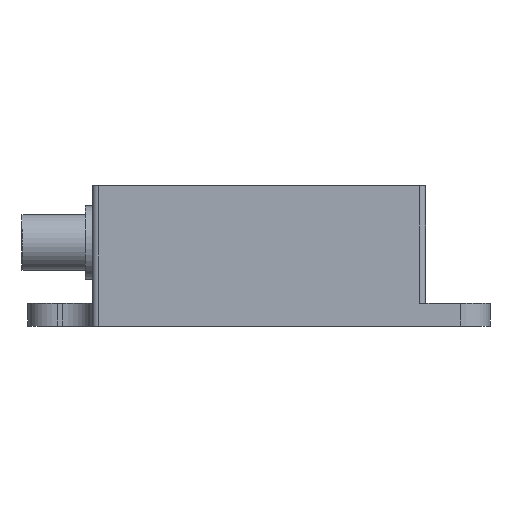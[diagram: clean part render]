
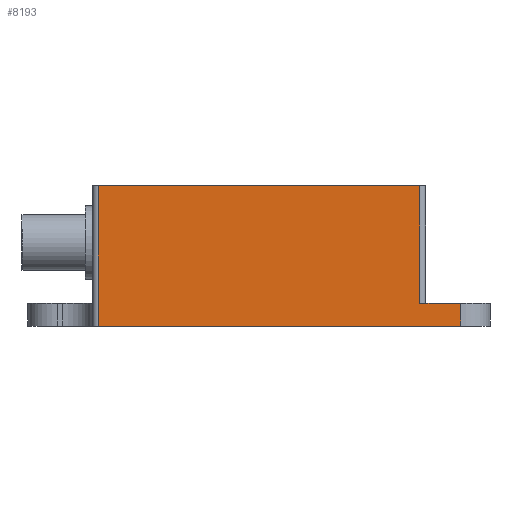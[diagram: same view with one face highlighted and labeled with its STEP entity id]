
A CAD part, left-side view. The second image highlights one B-rep face of the part: STEP entity #8193.
In plain terms, the highlighted planar face has unit normal (-1, 0, 0).
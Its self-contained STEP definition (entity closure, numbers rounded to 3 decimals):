
#751=FACE_OUTER_BOUND('',#1250,.T.);
#1250=EDGE_LOOP('',(#7350,#7351,#7352,#7353,#7354,#7355));
#2119=LINE('',#13257,#3064);
#2144=LINE('',#13350,#3089);
#2159=LINE('',#13402,#3104);
#2173=LINE('',#13439,#3118);
#2174=LINE('',#13442,#3119);
#2187=LINE('',#13477,#3132);
#3064=VECTOR('',#10300,10.);
#3089=VECTOR('',#10413,10.);
#3104=VECTOR('',#10460,10.);
#3118=VECTOR('',#10504,10.);
#3119=VECTOR('',#10509,10.);
#3132=VECTOR('',#10550,10.);
#3934=VERTEX_POINT('',#13254);
#3935=VERTEX_POINT('',#13256);
#3958=VERTEX_POINT('',#13347);
#3959=VERTEX_POINT('',#13349);
#3980=VERTEX_POINT('',#13400);
#3988=VERTEX_POINT('',#13438);
#5018=EDGE_CURVE('',#3934,#3935,#2119,.T.);
#5057=EDGE_CURVE('',#3959,#3958,#2144,.T.);
#5084=EDGE_CURVE('',#3980,#3958,#2159,.T.);
#5102=EDGE_CURVE('',#3935,#3988,#2173,.T.);
#5104=EDGE_CURVE('',#3959,#3934,#2174,.T.);
#5121=EDGE_CURVE('',#3988,#3980,#2187,.T.);
#7350=ORIENTED_EDGE('',*,*,#5084,.F.);
#7351=ORIENTED_EDGE('',*,*,#5121,.F.);
#7352=ORIENTED_EDGE('',*,*,#5102,.F.);
#7353=ORIENTED_EDGE('',*,*,#5018,.F.);
#7354=ORIENTED_EDGE('',*,*,#5104,.F.);
#7355=ORIENTED_EDGE('',*,*,#5057,.T.);
#7758=PLANE('',#8687);
#8193=ADVANCED_FACE('',(#751),#7758,.T.);
#8687=AXIS2_PLACEMENT_3D('',#13478,#10551,#10552);
#10300=DIRECTION('',(0.,-1.,0.));
#10413=DIRECTION('',(0.,-1.,0.));
#10460=DIRECTION('',(0.,0.,-1.));
#10504=DIRECTION('',(0.,0.,-1.));
#10509=DIRECTION('',(0.,0.,1.));
#10550=DIRECTION('',(0.,-1.,0.));
#10551=DIRECTION('center_axis',(-1.,0.,0.));
#10552=DIRECTION('ref_axis',(0.,-1.,0.));
#13254=CARTESIAN_POINT('',(-48.5,27.5,24.));
#13256=CARTESIAN_POINT('',(-48.5,-27.5,24.));
#13257=CARTESIAN_POINT('',(-48.5,28.5,24.));
#13347=CARTESIAN_POINT('',(-48.5,-34.5,0.));
#13349=CARTESIAN_POINT('',(-48.5,27.5,0.));
#13350=CARTESIAN_POINT('',(-48.5,28.5,0.));
#13400=CARTESIAN_POINT('',(-48.5,-34.5,3.9));
#13402=CARTESIAN_POINT('',(-48.5,-34.5,0.));
#13438=CARTESIAN_POINT('',(-48.5,-27.5,3.9));
#13439=CARTESIAN_POINT('',(-48.5,-27.5,0.));
#13442=CARTESIAN_POINT('',(-48.5,27.5,0.));
#13477=CARTESIAN_POINT('',(-48.5,-28.5,3.9));
#13478=CARTESIAN_POINT('Origin',(-48.5,28.5,0.));
